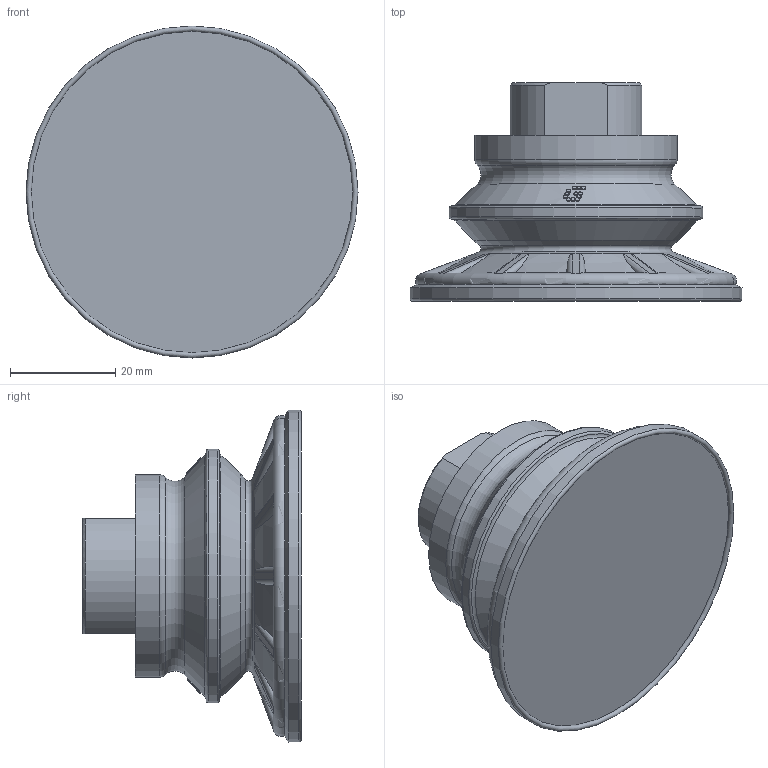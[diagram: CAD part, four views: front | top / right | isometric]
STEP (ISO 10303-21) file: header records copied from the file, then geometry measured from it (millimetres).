
FILE_DESCRIPTION (( 'STEP AP203' ), '1' );
FILE_NAME ('3100047.STEP', '2020-12-07T15:25:11', ( '' ), ( '' ), 'SwSTEP 2.0', 'SolidWorks 2020', '' );
FILE_SCHEMA (( 'CONFIG_CONTROL_DESIGN' ));
Length unit declared in the file: millimetre
Products named in the file (2): 3100047; Copia di 3100047-AS01^3100047
Assembly tree (1 placements, depth 2):
  3100047
    Copia di 3100047-AS01^3100047
Bounding box: 63 x 41.46 x 63 mm (x, y, z)
Volume: 53656.3 mm3; surface area: 11893.5 mm2
Topology: 1 solids, 1 shells, 203 faces, 496 edges, 309 vertices
Faces by surface type: plane 90, bspline 41, cone 34, cylinder 29, torus 9
Full cylindrical faces by diameter (mm): 38.429 x1, 48.08 x1, 63 x1
Entity records: 10752 total; most frequent: CARTESIAN_POINT 6718, ORIENTED_EDGE 918, DIRECTION 532, EDGE_CURVE 459, VERTEX_POINT 304, B_SPLINE_CURVE_WITH_KNOTS 259, EDGE_LOOP 249, FACE_OUTER_BOUND 227
